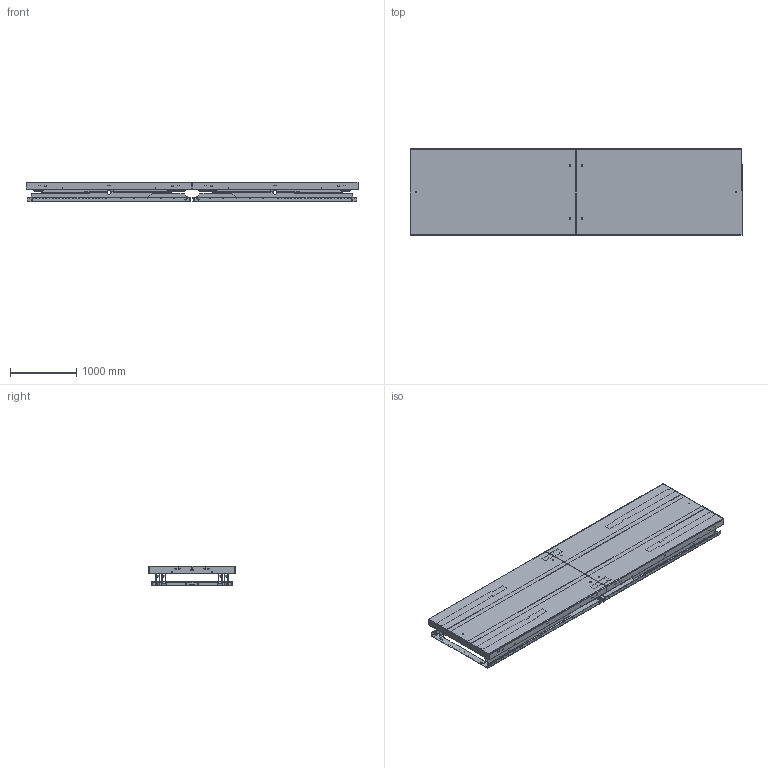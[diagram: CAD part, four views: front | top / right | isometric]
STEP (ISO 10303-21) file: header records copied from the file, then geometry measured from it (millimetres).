
FILE_DESCRIPTION(/* description */ ('TTH 6000'),/* implementation_level */ '2;1');
FILE_NAME(/* name */ 'C:\Autodesk_VaultWork\Ritningar\32885_Collapsed.stp',/* time_stamp */ '2019-04-18T13:17:18+02:00',/* author */ ('johso'),/* organization */ (''),/* preprocessor_version */ 'ST-DEVELOPER v16.5',/* originating_system */ 'Autodesk Inventor 2017',/* authorisation */ '');
FILE_SCHEMA (('AUTOMOTIVE_DESIGN { 1 0 10303 214 3 1 1 }'));
Products named in the file (34): 32885.tmp; 514617; 514609; 514610-1; 514610-5; 514610-2; 514610-4; 613993; 84175 - 1205; 612021; 612021_1; 32665; 32686; 80040-1850; 80040-1850_1; 32666; 32687; 80040-1850_2; 80040-2200; 613977; 613992; 42858; 45259; 613979; 613991; 613980; 613978; 614098; 605073; 45387; 80131; 43129-2485; 85955; 603235
Assembly tree (92 placements, depth 5):
  32885.tmp
    514617
      514609  x2
        514610-1
        514610-5
        514610-2
        514610-4
        45259
      613993
        84175 - 1205
    612021
      32665
        32686  x2
          80040-1850
          80040-1850_1
      32666
        32687  x2
          80040-1850_2
          80040-2200
    612021_1
      32665
        32686  x2
          80040-1850
          80040-1850_1
      32666
        32687  x2
          80040-1850_2
          80040-2200
    613977
      613992
      42858  x2
      45259  x2
      85955  x3
      613978
      614098
      605073  x2
      45387  x11
      80131  x6
      43129-2485  x2
    613979
      613991
      613980  x2
      85955  x3
      613978
      614098
      605073  x2
      45387  x11
      80131  x6
      43129-2485  x2
      603235  x4
Bounding box: 5000 x 1300 x 300 mm (x, y, z)
Volume: 113797134.7 mm3; surface area: 46146495.5 mm2
Topology: 95 solids, 95 shells, 4720 faces, 13246 edges, 8760 vertices
Faces by surface type: plane 2250, cylinder 2230, cone 204, torus 36
Full cylindrical faces by diameter (mm): 5.6 x8, 7.4 x60, 8 x20, 10.2 x24, 10.5 x12, 11.63 x12, 12 x8, 12.5 x8, 13.835 x30, 14 x12, 14.5 x32, 15 x8, 18.8 x12, 19 x6, 28.1 x6
Entity records: 64734 total; most frequent: CARTESIAN_POINT 11663, DIRECTION 11114, ORIENTED_EDGE 10674, EDGE_CURVE 5337, AXIS2_PLACEMENT_3D 3812, VERTEX_POINT 3605, LINE 3490, VECTOR 3490
